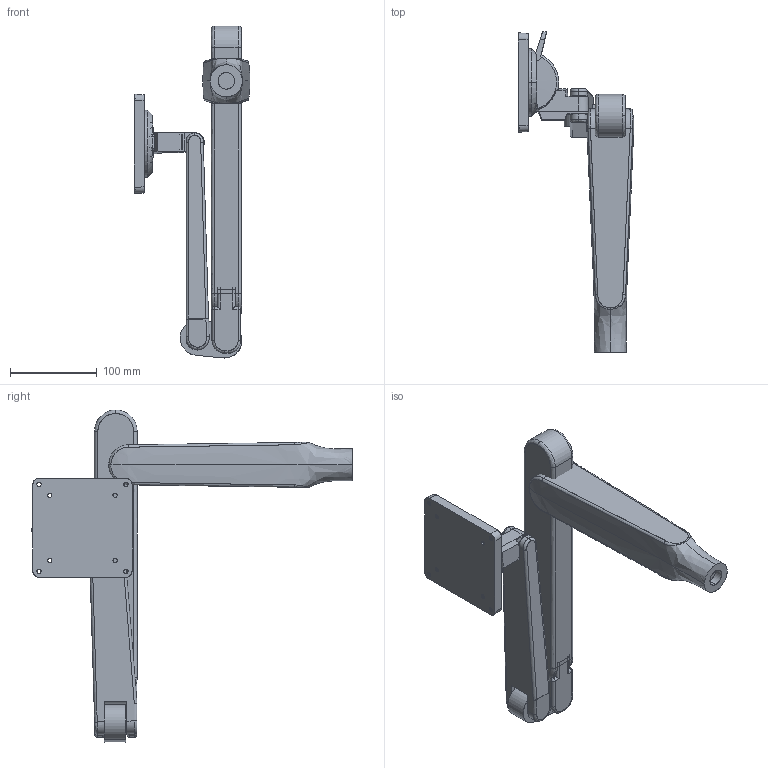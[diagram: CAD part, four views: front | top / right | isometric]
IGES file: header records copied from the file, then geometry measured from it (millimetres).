
Start section: SolidWorks IGES file using analytic representation for surfaces
Global section: file name: Q:\Design\Design Data\Product CAD\Customer CAD\Customer CAD for Website\Arms\Ollin\Ollin\Files for Website\New Head 2024\OLN-009-010.IGS; native system: SolidWorks 2022; preprocessor: SolidWorks 2022; author: ACAPHR; date: 240912.122103; units: millimetre
Bounding box: 132.97 x 368.56 x 381.83 mm (x, y, z)
Surface area: 219260.9 mm2 (no closed solid volume)
Topology: 0 solids, 0 shells, 297 faces, 4812 edges, 4806 vertices
Faces by surface type: bspline 149, revolution 148
